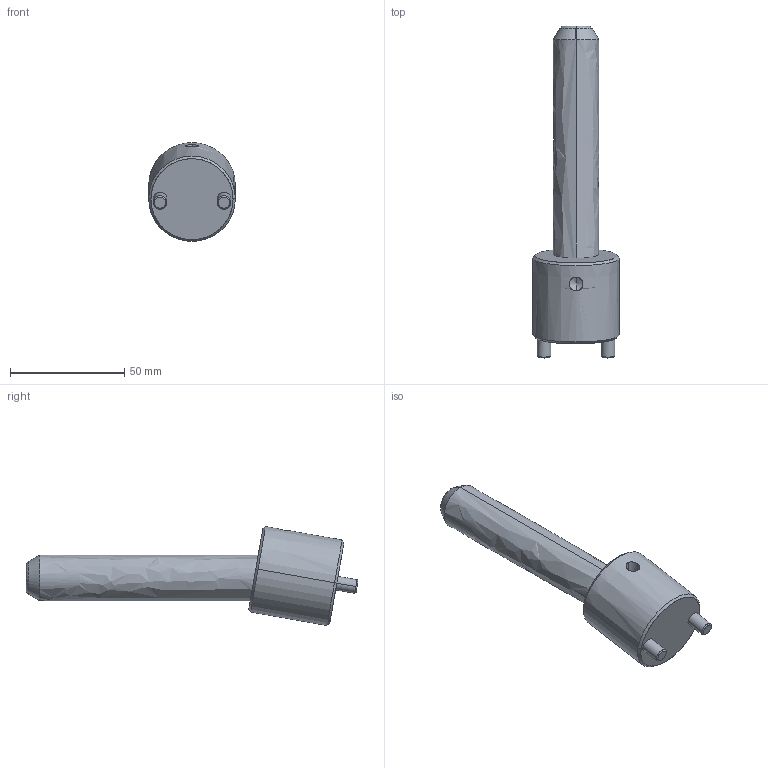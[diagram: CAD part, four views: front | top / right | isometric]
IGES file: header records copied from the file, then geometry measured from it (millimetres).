
Start section: START RECORD GO HERE.
Global section: file name: CI1020100.igs; native system: DASSAULT SYSTEMES CATIA V5 R20 - www.3ds.com; preprocessor: CATIA Version 5 Release 20 ; author: r.borello; organization: CFTORINO; date: 20190621.155453; units: millimetre
Bounding box: 38 x 145.45 x 43.33 mm (x, y, z)
Surface area: 17454.2 mm2 (no closed solid volume)
Topology: 0 solids, 0 shells, 39 faces, 162 edges, 160 vertices
Faces by surface type: revolution 32, plane 7
